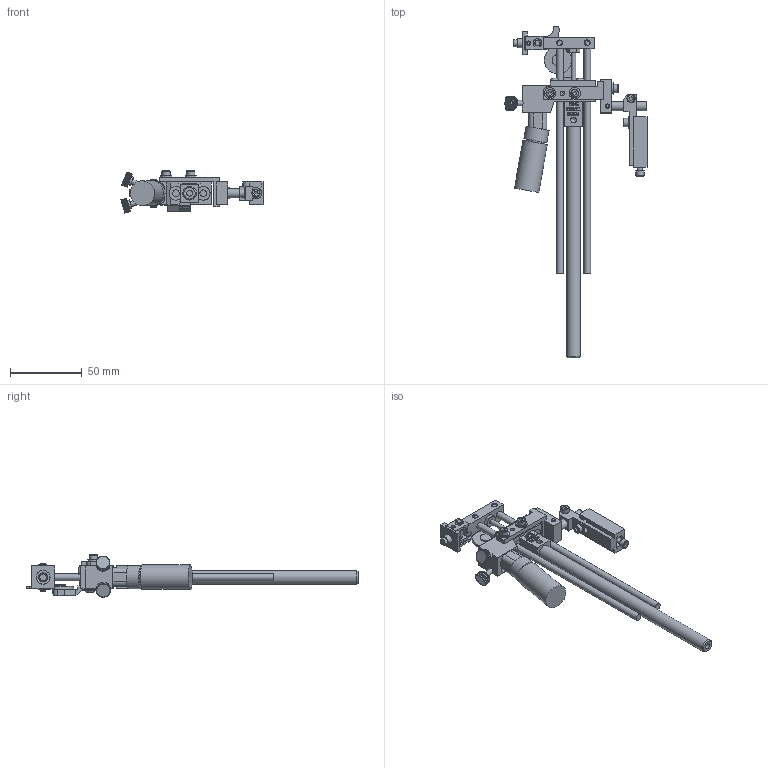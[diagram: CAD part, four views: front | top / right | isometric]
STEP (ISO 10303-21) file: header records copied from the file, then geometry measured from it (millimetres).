
FILE_DESCRIPTION((''),'2;1');
FILE_NAME('C:\Documents and Settings\Ron\My Documents\Inventor\Sprinter Drawing\Machines in Inventor\Model 22\Dot\3-sixth\Ext Str\E4\Brkt\90\Model 22 ES 4 3-16 dot 90 deg w brkt.stp','2009-01-23T14:38:11',('Ron'),(''),'Autodesk Inventor 2008','Autodesk Inventor 2008','');
FILE_SCHEMA(('AUTOMOTIVE_DESIGN { 1 0 10303 214 1 1 1 1 }'));
Length unit declared in the file: inch
Products named in the file (1): Model 22 ES 4 3-16 dot 90 deg w brkt
Bounding box: 99.17 x 231.81 x 29.56 mm (x, y, z)
Volume: 67484.3 mm3; surface area: 40144.9 mm2
Topology: 33 solids, 33 shells, 4743 faces, 13133 edges, 8723 vertices
Faces by surface type: plane 2900, bspline 1290, cylinder 484, cone 56, torus 13
Full cylindrical faces by diameter (mm): 2.845 x3, 2.946 x2, 3.175 x3, 3.505 x7, 3.556 x2, 3.658 x2, 3.876 x1, 3.962 x9, 4.064 x1, 4.166 x3, 4.648 x2, 4.699 x1, 4.75 x1, 4.763 x2, 4.775 x3, 4.788 x1, 5.41 x2, 5.74 x6, 6.096 x1, 6.325 x2, 6.35 x4, 6.477 x1, 6.655 x1, 7.925 x4, 7.938 x1, 8.128 x1, 9.462 x1, 9.525 x1, 10.922 x1, 11.938 x1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
Entity records: 166215 total; most frequent: CARTESIAN_POINT 49495, ORIENTED_EDGE 25738, DIRECTION 18448, EDGE_CURVE 12869, VECTOR 9052, LINE 9052, VERTEX_POINT 8637, EDGE_LOOP 5268
